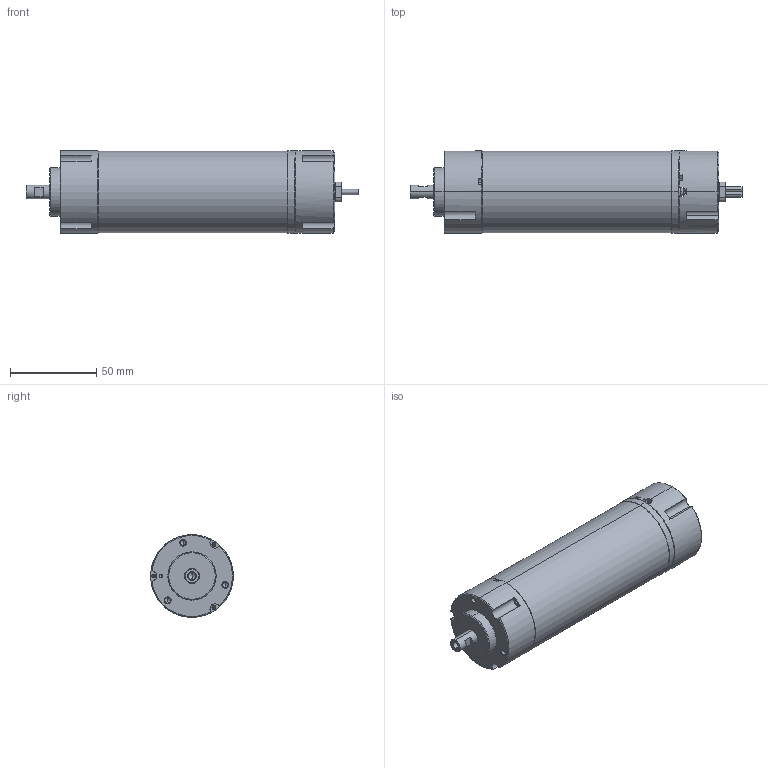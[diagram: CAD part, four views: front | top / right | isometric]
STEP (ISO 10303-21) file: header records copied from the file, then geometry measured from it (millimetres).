
FILE_DESCRIPTION (( 'STEP AP203' ), '1' );
FILE_NAME ('CTL50-010-XX-2_G STEP.STEP', '2019-02-25T19:42:45', ( '' ), ( '' ), 'SwSTEP 2.0', 'SolidWorks 2018', '' );
FILE_SCHEMA (( 'CONFIG_CONTROL_DESIGN' ));
Length unit declared in the file: millimetre
Products named in the file (8): 140219-01_B; 240716-01_B; 805022-05_C STEP; CTL50-010-XX-2_G STEP; 140218-01_C; 240717-01_C; 22978-01_A_001; 210098-05_D
Assembly tree (7 placements, depth 3):
  CTL50-010-XX-2_G STEP
    805022-05_C STEP
      140218-01_C
    210098-05_D
    140219-01_B
    240716-01_B
    240717-01_C
    22978-01_A_001
Bounding box: 192.9 x 48 x 48 mm (x, y, z)
Volume: 99060.6 mm3; surface area: 66174.4 mm2
Topology: 8 solids, 8 shells, 447 faces, 1113 edges, 687 vertices
Faces by surface type: cylinder 220, plane 119, cone 96, torus 9, bspline 3
Entity records: 14934 total; most frequent: CARTESIAN_POINT 3145, DIRECTION 2497, ORIENTED_EDGE 2154, EDGE_CURVE 1077, AXIS2_PLACEMENT_3D 1012, VERTEX_POINT 687, CIRCLE 557, EDGE_LOOP 548
